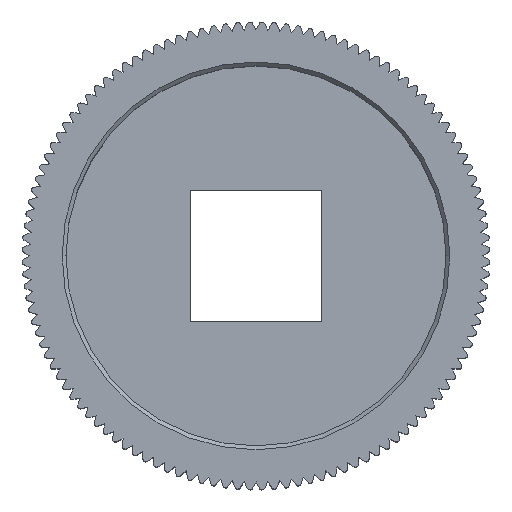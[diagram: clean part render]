
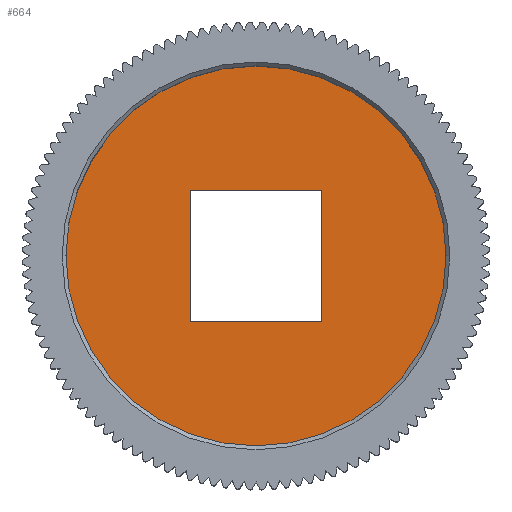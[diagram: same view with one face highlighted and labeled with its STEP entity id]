
A CAD part, top view. The second image highlights one B-rep face of the part: STEP entity #664.
In plain terms, the highlighted planar face has unit normal (0, 0, 1).
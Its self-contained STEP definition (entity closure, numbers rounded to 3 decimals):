
#664 = ADVANCED_FACE( '', ( #1616, #1617 ), #1618, .F. );
#1616 = FACE_OUTER_BOUND( '', #2862, .T. );
#1617 = FACE_BOUND( '', #2863, .T. );
#1618 = PLANE( '', #2864 );
#2862 = EDGE_LOOP( '', ( #4673 ) );
#2863 = EDGE_LOOP( '', ( #4674, #4675, #4676, #4677 ) );
#2864 = AXIS2_PLACEMENT_3D( '', #4678, #4679, #4680 );
#4673 = ORIENTED_EDGE( '', *, *, #8303, .T. );
#4674 = ORIENTED_EDGE( '', *, *, #8304, .F. );
#4675 = ORIENTED_EDGE( '', *, *, #8305, .F. );
#4676 = ORIENTED_EDGE( '', *, *, #8306, .F. );
#4677 = ORIENTED_EDGE( '', *, *, #8307, .F. );
#4678 = CARTESIAN_POINT( '', ( 0., 0., 8.5 ) );
#4679 = DIRECTION( '', ( 0., 0., -1. ) );
#4680 = DIRECTION( '', ( -1., 0., 0. ) );
#8303 = EDGE_CURVE( '', #10292, #10292, #10293, .T. );
#8304 = EDGE_CURVE( '', #10294, #10295, #10296, .T. );
#8305 = EDGE_CURVE( '', #10297, #10294, #10298, .T. );
#8306 = EDGE_CURVE( '', #10299, #10297, #10300, .T. );
#8307 = EDGE_CURVE( '', #10295, #10299, #10301, .T. );
#10292 = VERTEX_POINT( '', #13075 );
#10293 = CIRCLE( '', #13076, 12.271 );
#10294 = VERTEX_POINT( '', #13077 );
#10295 = VERTEX_POINT( '', #13078 );
#10296 = LINE( '', #13079, #13080 );
#10297 = VERTEX_POINT( '', #13081 );
#10298 = LINE( '', #13082, #13083 );
#10299 = VERTEX_POINT( '', #13084 );
#10300 = LINE( '', #13085, #13086 );
#10301 = LINE( '', #13087, #13088 );
#13075 = CARTESIAN_POINT( '', ( 0., -12.271, 8.5 ) );
#13076 = AXIS2_PLACEMENT_3D( '', #15673, #15674, #15675 );
#13077 = CARTESIAN_POINT( '', ( -4.25, 4.25, 8.5 ) );
#13078 = CARTESIAN_POINT( '', ( -4.25, -4.25, 8.5 ) );
#13079 = CARTESIAN_POINT( '', ( -4.25, 0., 8.5 ) );
#13080 = VECTOR( '', #15676, 1000. );
#13081 = CARTESIAN_POINT( '', ( 4.25, 4.25, 8.5 ) );
#13082 = CARTESIAN_POINT( '', ( 0., 4.25, 8.5 ) );
#13083 = VECTOR( '', #15677, 1000. );
#13084 = CARTESIAN_POINT( '', ( 4.25, -4.25, 8.5 ) );
#13085 = CARTESIAN_POINT( '', ( 4.25, 0., 8.5 ) );
#13086 = VECTOR( '', #15678, 1000. );
#13087 = CARTESIAN_POINT( '', ( 0., -4.25, 8.5 ) );
#13088 = VECTOR( '', #15679, 1000. );
#15673 = CARTESIAN_POINT( '', ( 0., 0., 8.5 ) );
#15674 = DIRECTION( '', ( 0., 0., 1. ) );
#15675 = DIRECTION( '', ( 0., -1., 0. ) );
#15676 = DIRECTION( '', ( 0., -1., 0. ) );
#15677 = DIRECTION( '', ( -1., 0., 0. ) );
#15678 = DIRECTION( '', ( 0., 1., 0. ) );
#15679 = DIRECTION( '', ( 1., 0., 0. ) );
